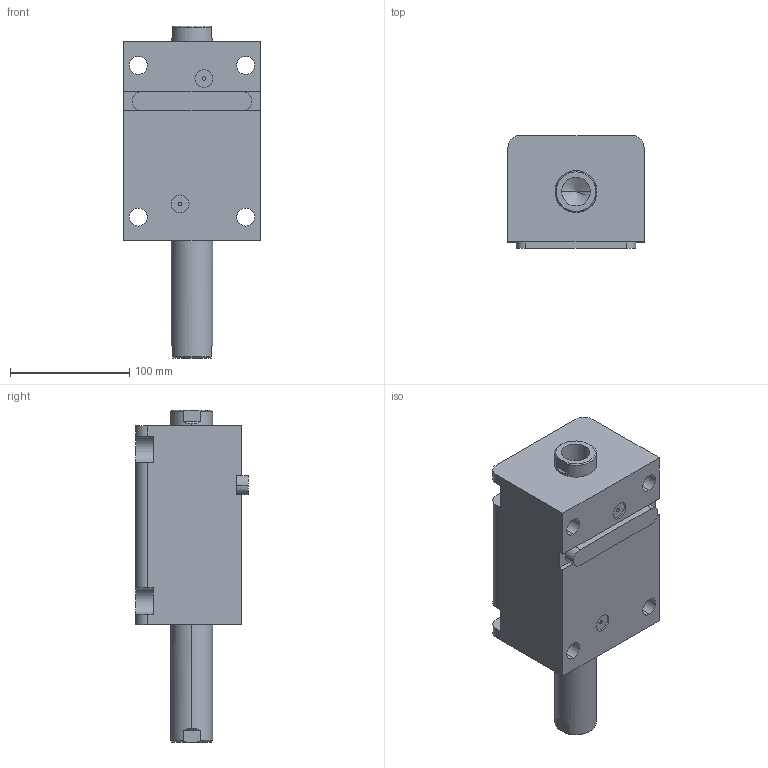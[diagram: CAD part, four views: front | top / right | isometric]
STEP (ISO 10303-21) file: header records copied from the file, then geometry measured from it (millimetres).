
FILE_DESCRIPTION (( 'STEP AP203' ), '1' );
FILE_NAME ('HTB-LWM63-85N.STEP', '2020-12-25T03:54:09', ( '微软用户' ), ( '微软中国' ), 'SwSTEP 2.0', 'SolidWorks 2012', '' );
FILE_SCHEMA (( 'CONFIG_CONTROL_DESIGN' ));
Length unit declared in the file: millimetre
Products named in the file (4): HTB-LWM63-85掛极; HTB-LWM63-85N活塞杆; HTB-LWM63-瑩; HTB-LWM63-85N
Assembly tree (3 placements, depth 2):
  HTB-LWM63-85N
    HTB-LWM63-85掛极
    HTB-LWM63-85N活塞杆
    HTB-LWM63-瑩
Bounding box: 114 x 94.5 x 278 mm (x, y, z)
Volume: 1503262.5 mm3; surface area: 181870 mm2
Topology: 3 solids, 3 shells, 105 faces, 261 edges, 168 vertices
Faces by surface type: cylinder 45, plane 44, torus 8, cone 8
Entity records: 3571 total; most frequent: CARTESIAN_POINT 592, DIRECTION 573, ORIENTED_EDGE 514, EDGE_CURVE 257, AXIS2_PLACEMENT_3D 221, VERTEX_POINT 168, LINE 131, VECTOR 131
